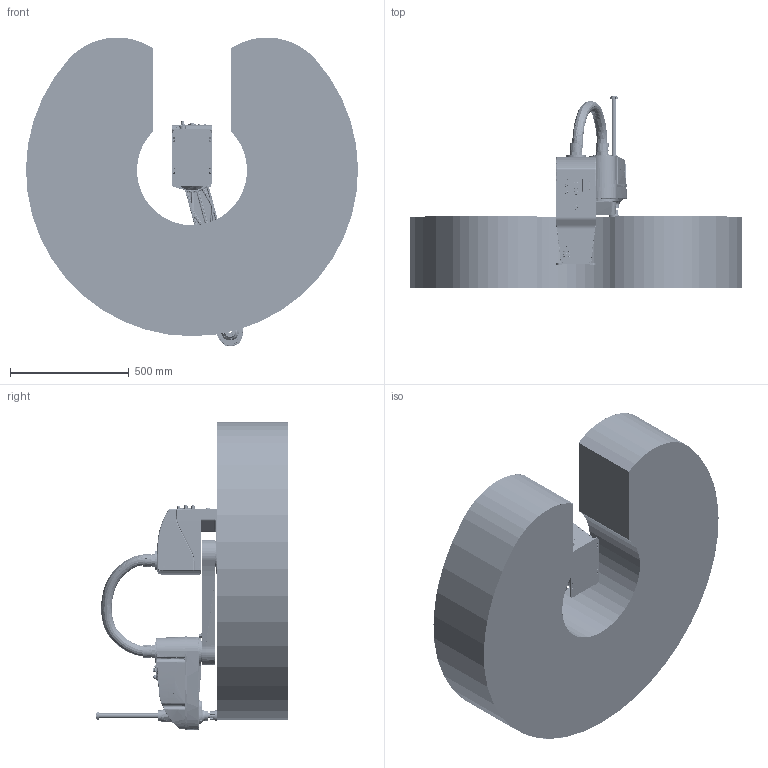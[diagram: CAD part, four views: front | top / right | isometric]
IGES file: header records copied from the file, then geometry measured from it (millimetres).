
Start section: SolidWorks IGES file using analytic representation for surfaces
Global section: file name: D:\QKM_PDM\01_SP研发\021AH6\05_对外发布模型\AH6-0700-0204-3000\IGS\AH6-0700-0204-3000-T0-2.0.0.IGS; native system: SolidWorks 2017; preprocessor: SolidWorks 2017; author: 0025; date: 201224.155501; units: millimetre
Bounding box: 1399.88 x 810 x 1301.88 mm (x, y, z)
Surface area: 5384008 mm2 (no closed solid volume)
Topology: 0 solids, 0 shells, 6619 faces, 71279 edges, 71165 vertices
Faces by surface type: bspline 5013, revolution 1606
